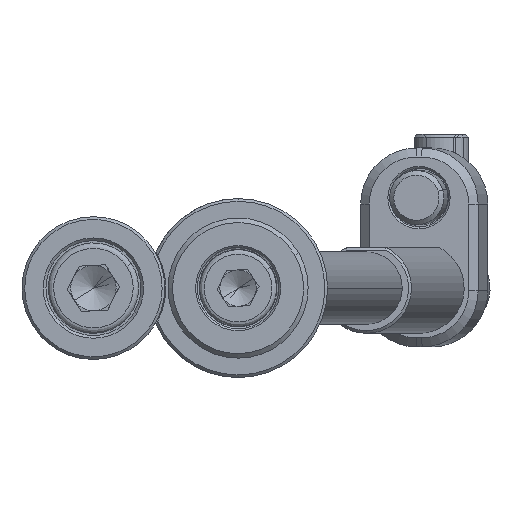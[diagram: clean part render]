
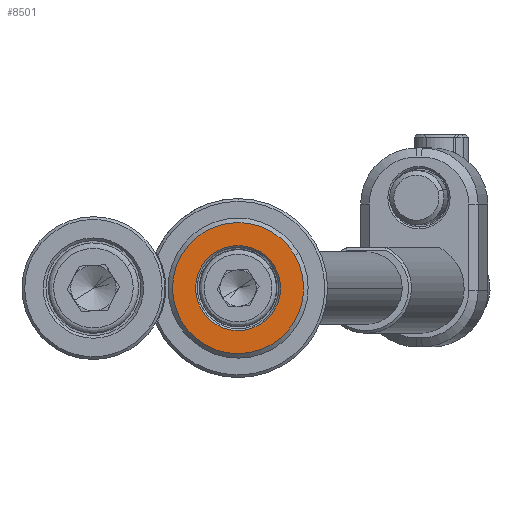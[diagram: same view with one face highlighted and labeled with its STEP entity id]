
A CAD part, front view. The second image highlights one B-rep face of the part: STEP entity #8501.
In plain terms, the highlighted planar face has unit normal (0, -1, 0).
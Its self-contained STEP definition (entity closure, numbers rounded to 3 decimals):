
#178 = EDGE_CURVE ( 'NONE', #5207, #11475, #11623, .T. ) ;
#565 = CIRCLE ( 'NONE', #9994, 4.7 ) ;
#603 = AXIS2_PLACEMENT_3D ( 'NONE', #9015, #13296, #14035 ) ;
#847 = FACE_BOUND ( 'NONE', #8519, .T. ) ;
#1134 = ORIENTED_EDGE ( 'NONE', *, *, #5614, .T. ) ;
#1196 = DIRECTION ( 'NONE',  ( -0.865, 0., -0.503 ) ) ;
#2233 = CARTESIAN_POINT ( 'NONE',  ( 6.268, -4., 3.643 ) ) ;
#2288 = DIRECTION ( 'NONE',  ( -0.865, 0., -0.503 ) ) ;
#3637 = ORIENTED_EDGE ( 'NONE', *, *, #178, .T. ) ;
#3673 = CARTESIAN_POINT ( 'NONE',  ( -4.063, -4., -2.362 ) ) ;
#4213 = CARTESIAN_POINT ( 'NONE',  ( -6.268, -4., -3.643 ) ) ;
#4422 = DIRECTION ( 'NONE',  ( 0., -1., 0. ) ) ;
#4887 = EDGE_CURVE ( 'NONE', #6090, #10901, #11086, .T. ) ;
#4889 = EDGE_CURVE ( 'NONE', #10901, #6090, #8798, .T. ) ;
#5165 = EDGE_LOOP ( 'NONE', ( #12192, #5241 ) ) ;
#5207 = VERTEX_POINT ( 'NONE', #6732 ) ;
#5241 = ORIENTED_EDGE ( 'NONE', *, *, #4887, .T. ) ;
#5579 = AXIS2_PLACEMENT_3D ( 'NONE', #7834, #4422, #2288 ) ;
#5614 = EDGE_CURVE ( 'NONE', #11475, #5207, #565, .T. ) ;
#6090 = VERTEX_POINT ( 'NONE', #2233 ) ;
#6178 = DIRECTION ( 'NONE',  ( -0.865, 0., -0.503 ) ) ;
#6330 = CARTESIAN_POINT ( 'NONE',  ( 0., -4., 0. ) ) ;
#6732 = CARTESIAN_POINT ( 'NONE',  ( 4.063, -4., 2.362 ) ) ;
#7834 = CARTESIAN_POINT ( 'NONE',  ( 0., -4., 0. ) ) ;
#8501 = ADVANCED_FACE ( 'NONE', ( #847, #12694 ), #9402, .F. ) ;
#8519 = EDGE_LOOP ( 'NONE', ( #3637, #1134 ) ) ;
#8532 = CARTESIAN_POINT ( 'NONE',  ( 2.261, -4., -3.891 ) ) ;
#8798 = CIRCLE ( 'NONE', #13586, 7.25 ) ;
#9015 = CARTESIAN_POINT ( 'NONE',  ( 0., -4., 0. ) ) ;
#9402 = PLANE ( 'NONE',  #9781 ) ;
#9639 = DIRECTION ( 'NONE',  ( -0.865, 0., -0.503 ) ) ;
#9781 = AXIS2_PLACEMENT_3D ( 'NONE', #8532, #10555, #6178 ) ;
#9994 = AXIS2_PLACEMENT_3D ( 'NONE', #6330, #10706, #9639 ) ;
#10555 = DIRECTION ( 'NONE',  ( 0., 1., 0. ) ) ;
#10706 = DIRECTION ( 'NONE',  ( 0., 1., 0. ) ) ;
#10901 = VERTEX_POINT ( 'NONE', #4213 ) ;
#11053 = DIRECTION ( 'NONE',  ( 0., -1., 0. ) ) ;
#11086 = CIRCLE ( 'NONE', #5579, 7.25 ) ;
#11475 = VERTEX_POINT ( 'NONE', #3673 ) ;
#11623 = CIRCLE ( 'NONE', #603, 4.7 ) ;
#12187 = CARTESIAN_POINT ( 'NONE',  ( 0., -4., 0. ) ) ;
#12192 = ORIENTED_EDGE ( 'NONE', *, *, #4889, .T. ) ;
#12694 = FACE_OUTER_BOUND ( 'NONE', #5165, .T. ) ;
#13296 = DIRECTION ( 'NONE',  ( 0., 1., 0. ) ) ;
#13586 = AXIS2_PLACEMENT_3D ( 'NONE', #12187, #11053, #1196 ) ;
#14035 = DIRECTION ( 'NONE',  ( -0.865, 0., -0.503 ) ) ;
